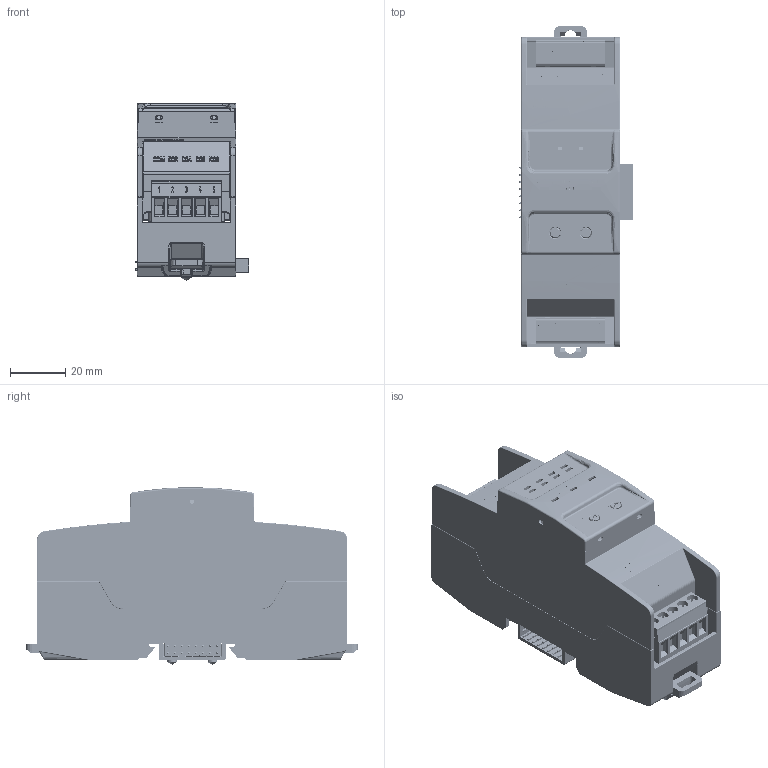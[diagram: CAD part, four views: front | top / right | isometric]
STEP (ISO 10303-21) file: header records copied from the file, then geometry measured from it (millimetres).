
FILE_DESCRIPTION (( 'STEP AP214' ), '1' );
FILE_NAME ('DO-8.STEP', '2020-11-06T07:13:01', ( '' ), ( '' ), 'SwSTEP 2.0', 'SolidWorks 2018', '' );
FILE_SCHEMA (( 'AUTOMOTIVE_DESIGN' ));
Length unit declared in the file: millimetre
Products named in the file (1): DO-8
Bounding box: 40.96 x 119.88 x 64.12 mm (x, y, z)
Volume: 62454.2 mm3; surface area: 69425.1 mm2
Topology: 9 solids, 9 shells, 7557 faces, 19237 edges, 11902 vertices
Faces by surface type: plane 3850, cylinder 1816, bspline 1234, torus 357, sphere 230, cone 70
Full cylindrical faces by diameter (mm): 0.5 x20, 0.609 x2, 1 x32, 1.1 x2, 1.2 x16, 1.4 x10, 1.5 x6, 2.2 x4, 2.8 x8, 3.5 x4, 3.783 x10, 4 x18, 5.5 x4, 6 x4, 7 x2
Entity records: 268709 total; most frequent: CARTESIAN_POINT 98274, ORIENTED_EDGE 37698, DIRECTION 31161, EDGE_CURVE 18849, VERTEX_POINT 11849, VECTOR 10721, LINE 10721, AXIS2_PLACEMENT_3D 10220
